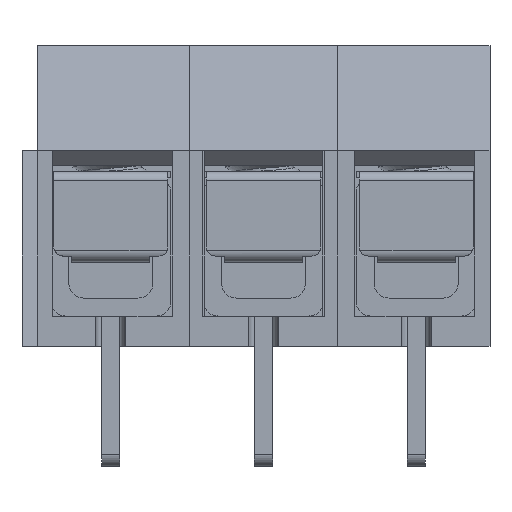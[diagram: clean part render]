
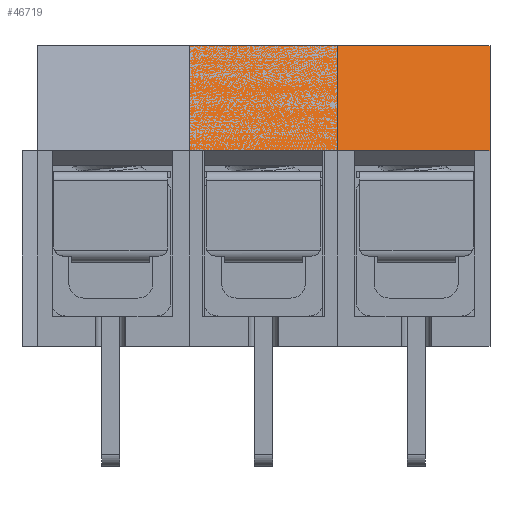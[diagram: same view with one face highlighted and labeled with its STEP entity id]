
A CAD part, front view. The second image highlights one B-rep face of the part: STEP entity #46719.
In plain terms, the highlighted planar face has unit normal (0, -0.962, 0.275).
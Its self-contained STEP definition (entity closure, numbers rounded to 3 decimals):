
#6348=FACE_OUTER_BOUND('',#8940,.T.);
#8940=EDGE_LOOP('',(#33809,#33810,#33811,#33812,#33813,#33814,#33815,#33816));
#11469=LINE('',#65106,#15066);
#11703=LINE('',#68212,#15300);
#11714=LINE('',#68236,#15311);
#11718=LINE('',#68245,#15315);
#11740=LINE('',#68305,#15337);
#11741=LINE('',#68306,#15338);
#11742=LINE('',#68307,#15339);
#11743=LINE('',#68308,#15340);
#15066=VECTOR('',#50879,10.);
#15300=VECTOR('',#51209,10.);
#15311=VECTOR('',#51226,10.);
#15315=VECTOR('',#51232,10.);
#15337=VECTOR('',#51292,10.);
#15338=VECTOR('',#51293,10.);
#15339=VECTOR('',#51294,10.);
#15340=VECTOR('',#51295,10.);
#18966=VERTEX_POINT('',#65103);
#18967=VERTEX_POINT('',#65105);
#19290=VERTEX_POINT('',#68209);
#19291=VERTEX_POINT('',#68211);
#19298=VERTEX_POINT('',#68229);
#19301=VERTEX_POINT('',#68234);
#19302=VERTEX_POINT('',#68238);
#19305=VERTEX_POINT('',#68243);
#24273=EDGE_CURVE('',#18966,#18967,#11469,.T.);
#24757=EDGE_CURVE('',#19291,#19290,#11703,.T.);
#24768=EDGE_CURVE('',#19298,#19301,#11714,.T.);
#24772=EDGE_CURVE('',#19302,#19305,#11718,.T.);
#24802=EDGE_CURVE('',#19290,#19298,#11740,.T.);
#24803=EDGE_CURVE('',#19301,#19302,#11741,.T.);
#24804=EDGE_CURVE('',#19305,#18967,#11742,.T.);
#24805=EDGE_CURVE('',#19291,#18966,#11743,.T.);
#33809=ORIENTED_EDGE('',*,*,#24757,.T.);
#33810=ORIENTED_EDGE('',*,*,#24802,.T.);
#33811=ORIENTED_EDGE('',*,*,#24768,.T.);
#33812=ORIENTED_EDGE('',*,*,#24803,.T.);
#33813=ORIENTED_EDGE('',*,*,#24772,.T.);
#33814=ORIENTED_EDGE('',*,*,#24804,.T.);
#33815=ORIENTED_EDGE('',*,*,#24273,.F.);
#33816=ORIENTED_EDGE('',*,*,#24805,.F.);
#45498=PLANE('',#48859);
#46719=ADVANCED_FACE('',(#6348),#45498,.T.);
#48859=AXIS2_PLACEMENT_3D('',#68304,#51290,#51291);
#50879=DIRECTION('',(0.,-0.275,-0.962));
#51209=DIRECTION('',(0.,-0.275,-0.962));
#51226=DIRECTION('',(1.,0.,0.));
#51232=DIRECTION('',(1.,0.,0.));
#51290=DIRECTION('center_axis',(0.,-0.962,0.275));
#51291=DIRECTION('ref_axis',(0.,-0.275,-0.962));
#51292=DIRECTION('',(1.,0.,0.));
#51293=DIRECTION('',(1.,0.,0.));
#51294=DIRECTION('',(1.,0.,0.));
#51295=DIRECTION('',(1.,0.,0.));
#65103=CARTESIAN_POINT('',(10.,1.,10.));
#65105=CARTESIAN_POINT('',(10.,0.,6.5));
#65106=CARTESIAN_POINT('',(10.,1.,10.));
#68209=CARTESIAN_POINT('',(0.,0.,6.5));
#68211=CARTESIAN_POINT('',(0.,1.,10.));
#68212=CARTESIAN_POINT('',(0.,1.,10.));
#68229=CARTESIAN_POINT('',(0.5,0.,6.5));
#68234=CARTESIAN_POINT('',(4.5,0.,6.5));
#68236=CARTESIAN_POINT('',(0.,0.,6.5));
#68238=CARTESIAN_POINT('',(5.5,0.,6.5));
#68243=CARTESIAN_POINT('',(9.5,0.,6.5));
#68245=CARTESIAN_POINT('',(0.,0.,6.5));
#68304=CARTESIAN_POINT('Origin',(0.,1.,10.));
#68305=CARTESIAN_POINT('',(0.,0.,6.5));
#68306=CARTESIAN_POINT('',(5.5,0.,6.5));
#68307=CARTESIAN_POINT('',(10.,0.,6.5));
#68308=CARTESIAN_POINT('',(0.,1.,10.));
